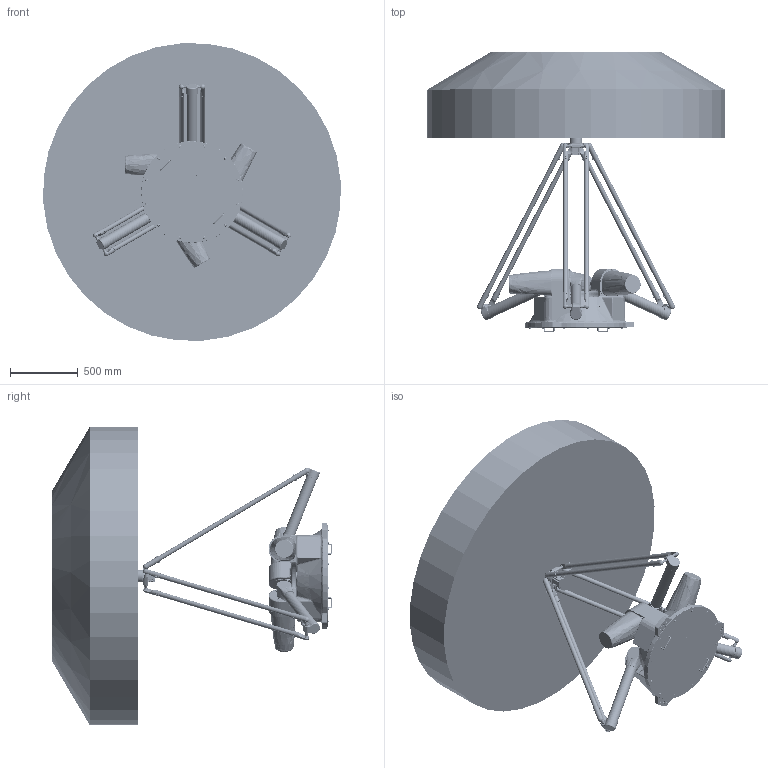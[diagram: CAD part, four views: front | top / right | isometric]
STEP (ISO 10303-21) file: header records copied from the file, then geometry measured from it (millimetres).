
FILE_DESCRIPTION (( 'STEP AP203' ), '1' );
FILE_NAME ('AP25X-2200-1544-T0-V2.0.0.STEP', '2024-10-11T02:45:37', ( '' ), ( '' ), 'SwSTEP 2.0', 'SolidWorks 2017', '' );
FILE_SCHEMA (( 'CONFIG_CONTROL_DESIGN' ));
Products named in the file (6): AP25X-1130-1544-T10-V1.0.0; AP25X-2200-1544-T10-V1.0.0; AP25X-2200-1544-T0-V2.0.0; AP15X-2200-1544-T1-V1.0.1; AP25X-2200-1544-T2-V1.0.0; AP25X-2200-1544-T3-V1.0.0
Assembly tree (12 placements, depth 2):
  AP25X-2200-1544-T0-V2.0.0
    AP15X-2200-1544-T1-V1.0.1
    AP25X-2200-1544-T2-V1.0.0  x3
    AP25X-2200-1544-T3-V1.0.0  x6
    AP25X-1130-1544-T10-V1.0.0
    AP25X-2200-1544-T10-V1.0.0
Bounding box: 2193.94 x 2071 x 2193.94 mm (x, y, z)
Volume: 2037627018.8 mm3; surface area: 17501370.7 mm2
Topology: 118 solids, 326 shells, 9244 faces, 24420 edges, 15276 vertices
Faces by surface type: cylinder 2770, plane 2255, bspline 2251, cone 1305, torus 508, sphere 155
Entity records: 381671 total; most frequent: CARTESIAN_POINT 208939, ORIENTED_EDGE 38322, DIRECTION 31162, EDGE_CURVE 19735, VERTEX_POINT 12823, AXIS2_PLACEMENT_3D 11828, EDGE_LOOP 8349, ADVANCED_FACE 7528
